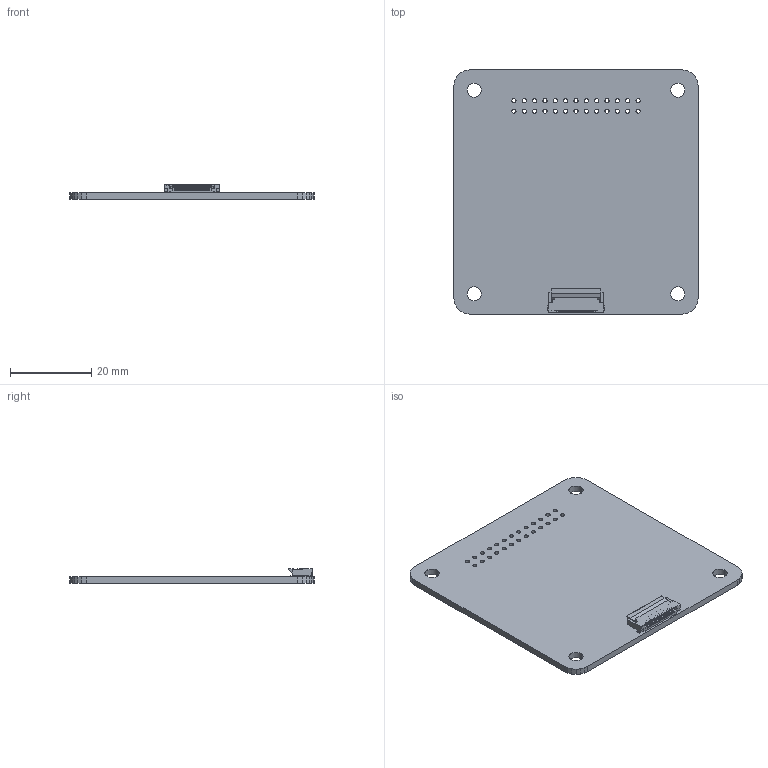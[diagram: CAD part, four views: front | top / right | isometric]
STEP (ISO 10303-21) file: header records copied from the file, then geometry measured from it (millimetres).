
FILE_DESCRIPTION (( 'STEP AP214' ), '1' );
FILE_NAME ('NHD-0.6-Breakout.STEP', '2019-05-13T18:20:37', ( '' ), ( '' ), 'SwSTEP 2.0', 'SolidWorks 2018', '' );
FILE_SCHEMA (( 'AUTOMOTIVE_DESIGN' ));
Length unit declared in the file: millimetre
Products named in the file (1): NHD-0.6-Breakout
Bounding box: 60 x 60 x 3.6 mm (x, y, z)
Volume: 5754.7 mm3; surface area: 8054 mm2
Topology: 2 solids, 2 shells, 893 faces, 2599 edges, 1732 vertices
Faces by surface type: plane 832, cylinder 61
Entity records: 38965 total; most frequent: CARTESIAN_POINT 5225, ORIENTED_EDGE 5198, DIRECTION 4509, EDGE_CURVE 2599, VECTOR 2477, LINE 2477, VERTEX_POINT 1732, AXIS2_PLACEMENT_3D 1016
